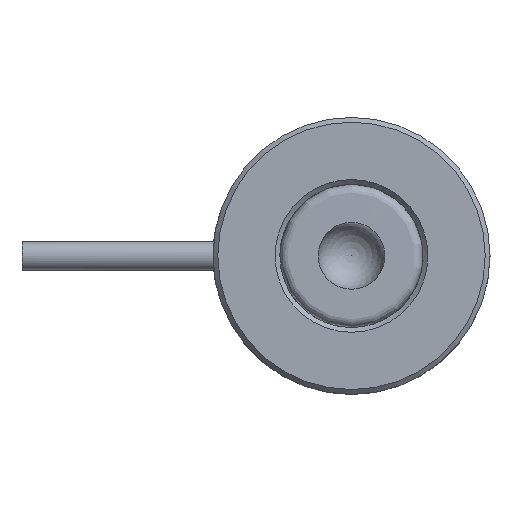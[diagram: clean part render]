
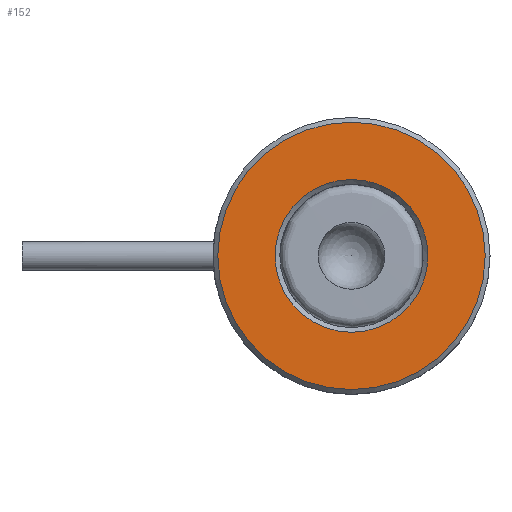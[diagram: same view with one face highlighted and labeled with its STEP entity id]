
A CAD part, top view. The second image highlights one B-rep face of the part: STEP entity #152.
In plain terms, the highlighted planar face has unit normal (0, 0, 1).
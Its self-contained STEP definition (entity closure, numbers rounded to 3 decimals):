
#152=ADVANCED_FACE('',(#376,#377),#378,.T.);
#376=FACE_OUTER_BOUND('',#718,.T.);
#377=FACE_BOUND('',#719,.T.);
#378=PLANE('',#720);
#718=EDGE_LOOP('',(#1237));
#719=EDGE_LOOP('',(#1238));
#720=AXIS2_PLACEMENT_3D('',#1239,#1240,#1241);
#1237=ORIENTED_EDGE('',*,*,#1815,.T.);
#1238=ORIENTED_EDGE('',*,*,#1812,.T.);
#1239=CARTESIAN_POINT('',(0.0,0.0,0.0));
#1240=DIRECTION('',(-0.0,0.,1.0));
#1241=DIRECTION('',(-1.0,0.0,-0.0));
#1812=EDGE_CURVE('',#2005,#2005,#2006,.F.);
#1815=EDGE_CURVE('',#2010,#2010,#2011,.T.);
#2005=VERTEX_POINT('',#2361);
#2006=CIRCLE('',#2362,8.0);
#2010=VERTEX_POINT('',#2366);
#2011=CIRCLE('',#2367,14.0);
#2361=CARTESIAN_POINT('',(-8.0,0.,0.));
#2362=AXIS2_PLACEMENT_3D('',#2718,#2719,#2720);
#2366=CARTESIAN_POINT('',(-14.0,0.0,0.0));
#2367=AXIS2_PLACEMENT_3D('',#2724,#2725,#2726);
#2718=CARTESIAN_POINT('',(0.0,0.0,0.0));
#2719=DIRECTION('',(-0.0,0.,1.0));
#2720=DIRECTION('',(-1.0,0.0,-0.0));
#2724=CARTESIAN_POINT('',(0.0,0.0,0.0));
#2725=DIRECTION('',(-0.0,0.,1.0));
#2726=DIRECTION('',(-1.0,0.0,-0.0));
